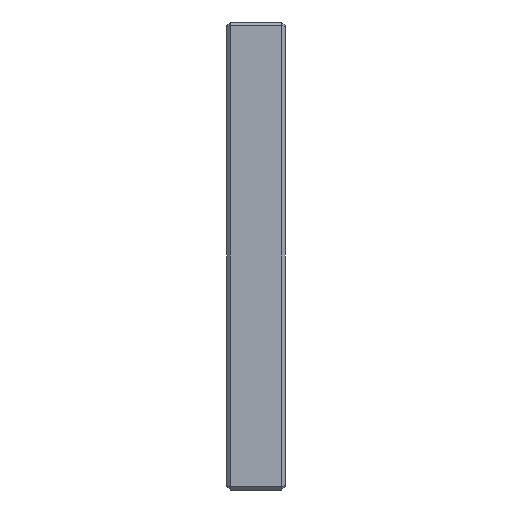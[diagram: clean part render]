
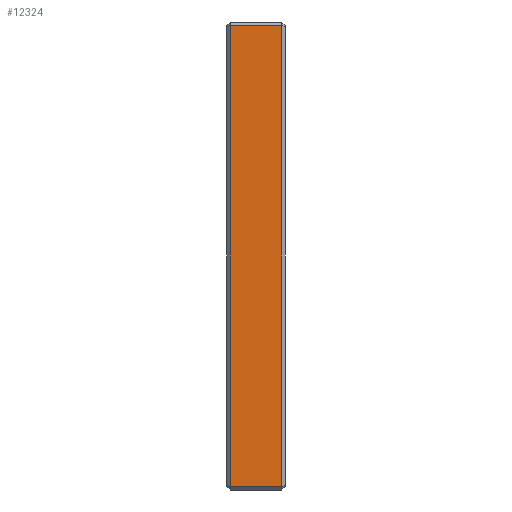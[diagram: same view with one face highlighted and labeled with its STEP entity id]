
A CAD part, left-side view. The second image highlights one B-rep face of the part: STEP entity #12324.
In plain terms, the highlighted planar face has unit normal (-1, 0, 0).
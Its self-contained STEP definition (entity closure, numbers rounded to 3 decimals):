
#3085=DIRECTION('',(0.,0.,1.));
#3086=VECTOR('',#3085,394.);
#3087=CARTESIAN_POINT('',(-400.,22.,-197.));
#3088=LINE('',#3087,#3086);
#3089=DIRECTION('',(0.,-1.,0.));
#3090=VECTOR('',#3089,44.);
#3091=CARTESIAN_POINT('',(-400.,22.,197.));
#3092=LINE('',#3091,#3090);
#3093=DIRECTION('',(0.,0.,-1.));
#3094=VECTOR('',#3093,394.);
#3095=CARTESIAN_POINT('',(-400.,-22.,197.));
#3096=LINE('',#3095,#3094);
#3097=DIRECTION('',(0.,-1.,0.));
#3098=VECTOR('',#3097,44.);
#3099=CARTESIAN_POINT('',(-400.,22.,-197.));
#3100=LINE('',#3099,#3098);
#8443=CARTESIAN_POINT('',(-400.,22.,-197.));
#8444=VERTEX_POINT('',#8443);
#8447=CARTESIAN_POINT('',(-400.,22.,197.));
#8448=VERTEX_POINT('',#8447);
#8460=CARTESIAN_POINT('',(-400.,-22.,197.));
#8462=VERTEX_POINT('',#8460);
#8467=CARTESIAN_POINT('',(-400.,-22.,-197.));
#8468=VERTEX_POINT('',#8467);
#12311=CARTESIAN_POINT('',(-400.,-25.,-200.));
#12312=DIRECTION('',(-1.,0.,0.));
#12313=DIRECTION('',(0.,0.,1.));
#12314=AXIS2_PLACEMENT_3D('',#12311,#12312,#12313);
#12315=PLANE('',#12314);
#12316=ORIENTED_EDGE('',*,*,#12302,.T.);
#12318=ORIENTED_EDGE('',*,*,#12317,.T.);
#12320=ORIENTED_EDGE('',*,*,#12319,.T.);
#12321=ORIENTED_EDGE('',*,*,#12276,.F.);
#12322=EDGE_LOOP('',(#12316,#12318,#12320,#12321));
#12323=FACE_OUTER_BOUND('',#12322,.F.);
#12324=ADVANCED_FACE('',(#12323),#12315,.T.);
#12276=EDGE_CURVE('',#8444,#8468,#3100,.T.);
#12302=EDGE_CURVE('',#8444,#8448,#3088,.T.);
#12317=EDGE_CURVE('',#8448,#8462,#3092,.T.);
#12319=EDGE_CURVE('',#8462,#8468,#3096,.T.);
